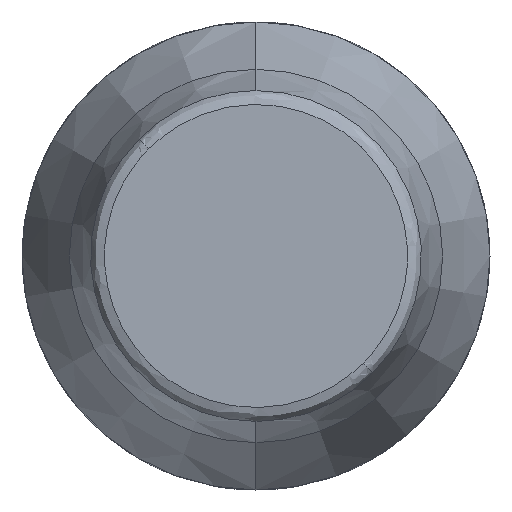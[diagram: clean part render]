
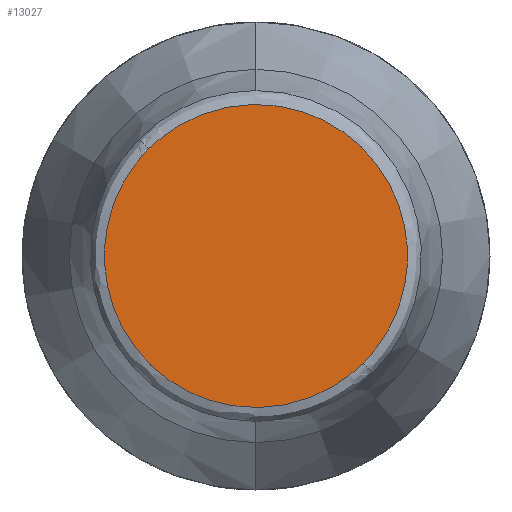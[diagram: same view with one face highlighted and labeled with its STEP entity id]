
A CAD part, left-side view. The second image highlights one B-rep face of the part: STEP entity #13027.
In plain terms, the highlighted planar face has unit normal (-1, 0, 0).
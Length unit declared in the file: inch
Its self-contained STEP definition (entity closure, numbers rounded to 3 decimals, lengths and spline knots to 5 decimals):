
#355 = CARTESIAN_POINT ( 'NONE',  ( -1.4252, -0.14872, 0.44617 ) ) ;
#1526 = CARTESIAN_POINT ( 'NONE',  ( -1.4252, -0.14872, -0.14872 ) ) ;
#2410 = CARTESIAN_POINT ( 'NONE',  ( -1.4252, -0.44617, 0.14872 ) ) ;
#2953 = DIRECTION ( 'NONE',  ( -1., 0., 0. ) ) ;
#3017 = DIRECTION ( 'NONE',  ( 0., 0., 1. ) ) ;
#3412 = CARTESIAN_POINT ( 'NONE',  ( -1.4252, -0.14872, -0.14872 ) ) ;
#5658 =( BOUNDED_CURVE ( )  B_SPLINE_CURVE ( 3, ( #8169, #355, #2410, #3412 ),
 .UNSPECIFIED., .F., .F. ) 
 B_SPLINE_CURVE_WITH_KNOTS ( ( 4, 4 ),
 ( 0., 1. ),
 .UNSPECIFIED. ) 
 CURVE ( )  GEOMETRIC_REPRESENTATION_ITEM ( )  RATIONAL_B_SPLINE_CURVE ( ( 1., 0.333, 0.333, 1. ) ) 
 REPRESENTATION_ITEM ( '' )  );
#6162 = CARTESIAN_POINT ( 'NONE',  ( -1.4252, 0.14872, 0.14872 ) ) ;
#6173 =( BOUNDED_CURVE ( )  B_SPLINE_CURVE ( 3, ( #10951, #11150, #11954, #6162 ),
 .UNSPECIFIED., .F., .F. ) 
 B_SPLINE_CURVE_WITH_KNOTS ( ( 4, 4 ),
 ( 0., 1. ),
 .UNSPECIFIED. ) 
 CURVE ( )  GEOMETRIC_REPRESENTATION_ITEM ( )  RATIONAL_B_SPLINE_CURVE ( ( 1., 0.333, 0.333, 1. ) ) 
 REPRESENTATION_ITEM ( '' )  );
#6505 = EDGE_CURVE ( 'NONE', #8046, #10756, #6173, .T. ) ;
#6829 = CARTESIAN_POINT ( 'NONE',  ( -1.4252, 0.14872, 0.14872 ) ) ;
#7153 = FACE_OUTER_BOUND ( 'NONE', #10501, .T. ) ;
#7443 = EDGE_CURVE ( 'NONE', #10756, #8046, #5658, .T. ) ;
#7708 = AXIS2_PLACEMENT_3D ( 'NONE', #8956, #2953, #3017 ) ;
#8046 = VERTEX_POINT ( 'NONE', #1526 ) ;
#8169 = CARTESIAN_POINT ( 'NONE',  ( -1.4252, 0.14872, 0.14872 ) ) ;
#8956 = CARTESIAN_POINT ( 'NONE',  ( -1.4252, 0.11319, 0. ) ) ;
#9019 = PLANE ( 'NONE',  #7708 ) ;
#9315 = ORIENTED_EDGE ( 'NONE', *, *, #7443, .F. ) ;
#10501 = EDGE_LOOP ( 'NONE', ( #9315, #12251 ) ) ;
#10756 = VERTEX_POINT ( 'NONE', #6829 ) ;
#10951 = CARTESIAN_POINT ( 'NONE',  ( -1.4252, -0.14872, -0.14872 ) ) ;
#11150 = CARTESIAN_POINT ( 'NONE',  ( -1.4252, 0.14872, -0.44617 ) ) ;
#11954 = CARTESIAN_POINT ( 'NONE',  ( -1.4252, 0.44617, -0.14872 ) ) ;
#12251 = ORIENTED_EDGE ( 'NONE', *, *, #6505, .F. ) ;
#13027 = ADVANCED_FACE ( 'NONE', ( #7153 ), #9019, .T. ) ;
